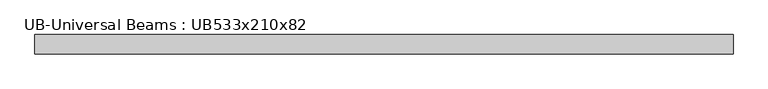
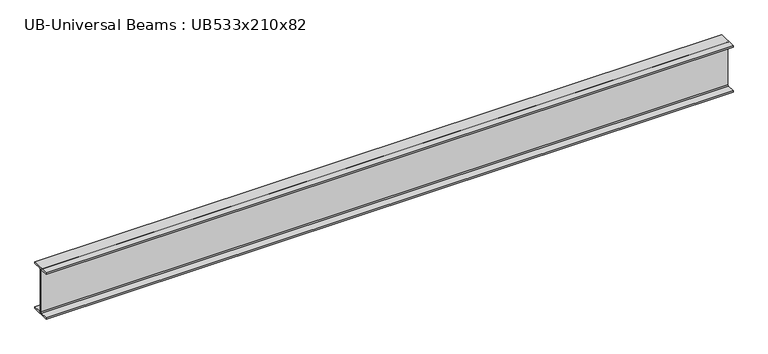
"""IFC4 building model written with IfcOpenShell, lengths in millimetres: beam geometry, UB-Universal Beams : UB533x210x82."""

from ifc_helpers import new_model, si_unit, point, frame, frame_2d, origin, place, context, project, spatial, polyline, circle_curve, trimmed, segment, composite_curve, outline, extrude, source, transform, mapped, element, save


def ub_universal_beams_ub533x210x82_8ec85ef7(model_context):
    return source(origin(), model_context, "Body", "SweptSolid", [
        extrude(outline(composite_curve([segment(polyline([(104.4, -250.95), (104.4, -264.15), (-104.4, -264.15), (-104.4, -250.95), (-17.5, -250.95)]), True, "CONTINUOUS"), segment(trimmed(circle_curve(frame_2d((-17.5, -238.25)), 12.7), [point((-17.5, -250.95))], [point((-4.8, -238.25))], True, "CARTESIAN"), True, "CONTINUOUS"), segment(polyline([(-4.8, -238.25), (-4.8, 238.25)]), True, "CONTINUOUS"), segment(trimmed(circle_curve(frame_2d((-17.5, 238.25)), 12.7), [point((-4.8, 238.25))], [point((-17.5, 250.95))], True, "CARTESIAN"), True, "CONTINUOUS"), segment(polyline([(-17.5, 250.95), (-104.4, 250.95), (-104.4, 264.15), (104.4, 264.15), (104.4, 250.95), (17.5, 250.95)]), True, "CONTINUOUS"), segment(trimmed(circle_curve(frame_2d((17.5, 238.25)), 12.7), [point((17.5, 250.95))], [point((4.8, 238.25))], True, "CARTESIAN"), True, "CONTINUOUS"), segment(polyline([(4.8, 238.25), (4.8, -238.25)]), True, "CONTINUOUS"), segment(trimmed(circle_curve(frame_2d((17.5, -238.25)), 12.7), [point((4.8, -238.25))], [point((17.5, -250.95))], True, "CARTESIAN"), True, "CONTINUOUS"), segment(polyline([(17.5, -250.95), (104.4, -250.95)]), True, "CONTINUOUS")], self_intersect=False)), frame((-3721.65, 0.0, 0.0), z_axis=(1.0, 0.0, 0.0), x_axis=(0.0, 1.0, 0.0)), (0.0, 0.0, 1.0), 7447.7),
    ])


if __name__ == "__main__":
    model = new_model("IFC4")
    model_context = context("Model", 3, world=origin())
    ifc_project = project(units=[si_unit("LENGTHUNIT", "METRE", prefix="MILLI")], contexts=[model_context])
    site = spatial("IfcSite", under=ifc_project)
    building = spatial("IfcBuilding", under=site)
    placement = place(None, origin())
    ub_universal_beams_ub533x210x82_shape = ub_universal_beams_ub533x210x82_8ec85ef7(model_context)
    element("IfcBeam", 1, ObjectType="UB-Universal Beams : UB533x210x82", at=placement, inside=building, context=model_context, shape_type="MappedRepresentation", body=[
        mapped(ub_universal_beams_ub533x210x82_shape, transform((0.0, 0.0, 0.0), x_axis=(1.0, 0.0, 0.0), y_axis=(0.0, 1.0, 0.0), z_axis=(0.0, 0.0, 1.0))),
    ])
    save(model, "model.ifc")
